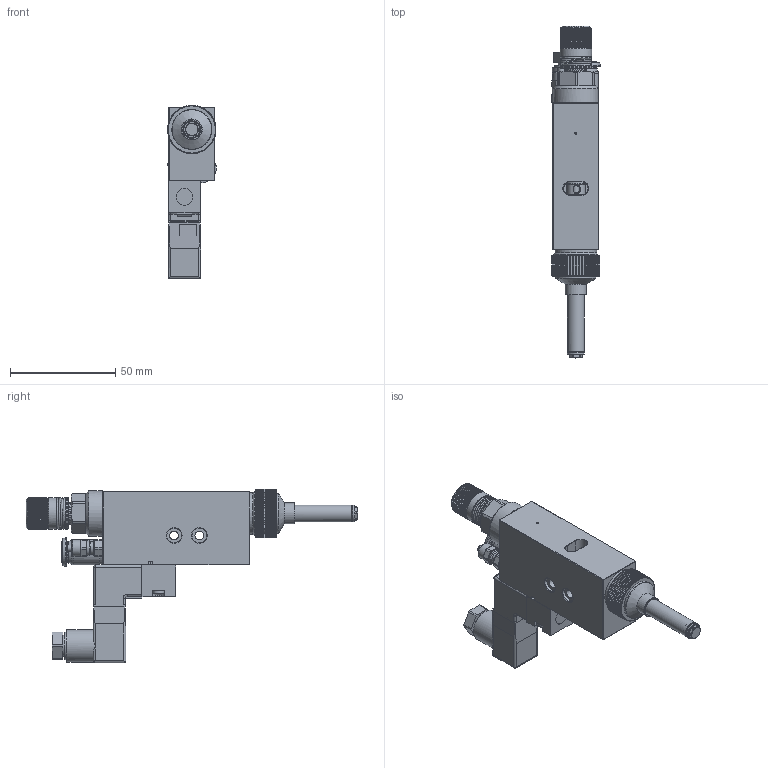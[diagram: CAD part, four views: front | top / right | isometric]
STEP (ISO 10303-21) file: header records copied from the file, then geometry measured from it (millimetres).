
FILE_DESCRIPTION (( 'STEP AP214' ), '1' );
FILE_NAME ('DAS-50N-EV-30.STEP', '2024-10-11T10:07:20', ( '' ), ( '' ), 'SwSTEP 2.0', 'SolidWorks 2024', '' );
FILE_SCHEMA (( 'AUTOMOTIVE_DESIGN' ));
Length unit declared in the file: millimetre
Products named in the file (1): DAS-50N-EV-30
Bounding box: 23.15 x 158 x 82.5 mm (x, y, z)
Volume: 83704.5 mm3; surface area: 28052.6 mm2
Topology: 2 solids, 4 shells, 1392 faces, 3672 edges, 2316 vertices
Faces by surface type: plane 549, cylinder 527, cone 282, bspline 34
Full cylindrical faces by diameter (mm): 0.5 x10, 0.8 x2, 1 x1, 1.5 x3, 2 x1, 2.5 x6, 2.7 x3, 3 x8, 3.2 x3, 3.5 x4, 3.585 x1, 4.2 x3, 4.5 x1, 5 x2, 5.15 x1, 5.5 x1, 5.6 x2, 6 x1, 7 x5, 7.1 x1, 7.169 x1, 7.5 x1, 7.8 x1, 8 x3, 8.053 x1, 8.1 x1, 8.566 x1, 8.8 x1, 8.85 x1, 9.7 x1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
Entity records: 61612 total; most frequent: CARTESIAN_POINT 31115, ORIENTED_EDGE 6844, DIRECTION 5277, EDGE_CURVE 3422, VERTEX_POINT 2222, AXIS2_PLACEMENT_3D 2001, EDGE_LOOP 1632, FACE_OUTER_BOUND 1492
